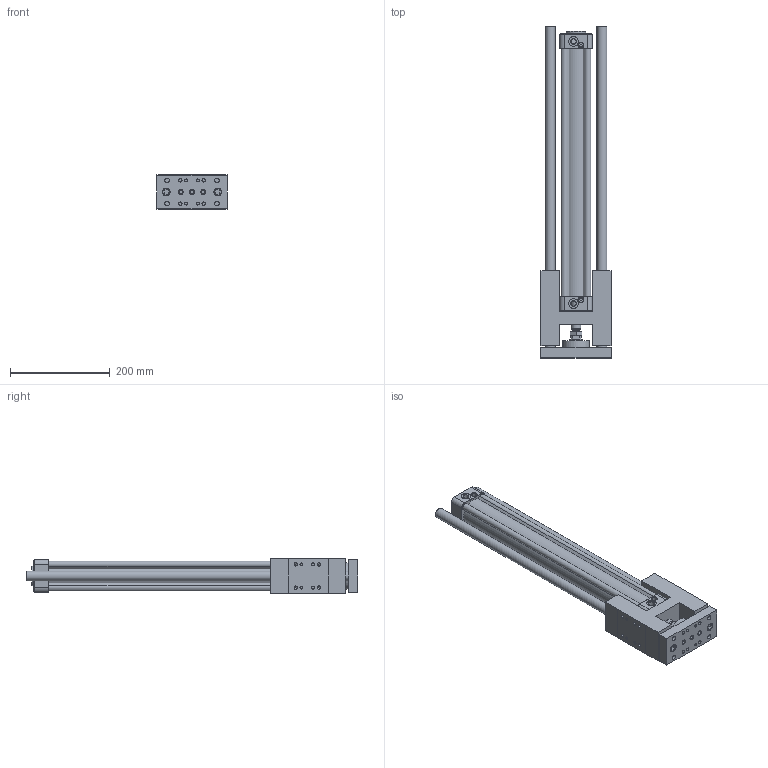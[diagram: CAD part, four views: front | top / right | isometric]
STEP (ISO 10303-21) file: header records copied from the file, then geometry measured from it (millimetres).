
FILE_DESCRIPTION((''),'2;1');
FILE_NAME('I:\3D電子目錄\氣缸\GHB(U)\GHB(U)\GHB(U)50\GHB(U)50x450.stp','2007-10-19T16:42:41',('Administrator'),(''),'Autodesk Inventor 11','Autodesk Inventor 11','');
FILE_SCHEMA(('AUTOMOTIVE_DESIGN { 1 0 10303 214 1 1 1 1 }'));
Length unit declared in the file: millimetre
Products named in the file (1): GHB(U)50
Bounding box: 141 x 666 x 70 mm (x, y, z)
Volume: 2007355.9 mm3; surface area: 508790 mm2
Topology: 1 solids, 13 shells, 779 faces, 1736 edges, 1075 vertices
Faces by surface type: plane 299, bspline 222, cylinder 163, cone 88, torus 7
Full cylindrical faces by diameter (mm): 2.5 x2, 6 x8, 6.647 x4, 6.7 x2, 6.75 x4, 7.25 x2, 7.4 x4, 7.5 x2, 8.5 x9, 9 x2, 9.8 x4, 10 x5, 11.5 x1, 11.9 x1, 12 x3, 13 x4, 14 x8, 14.5 x2, 16 x3, 19 x2, 20 x4, 23 x1, 25 x1, 26 x2, 40 x1, 50 x1, 54 x1
Entity records: 22633 total; most frequent: CARTESIAN_POINT 7068, DIRECTION 3100, ORIENTED_EDGE 3020, EDGE_CURVE 1510, AXIS2_PLACEMENT_3D 1202, EDGE_LOOP 1071, VERTEX_POINT 1029, FACE_OUTER_BOUND 778
